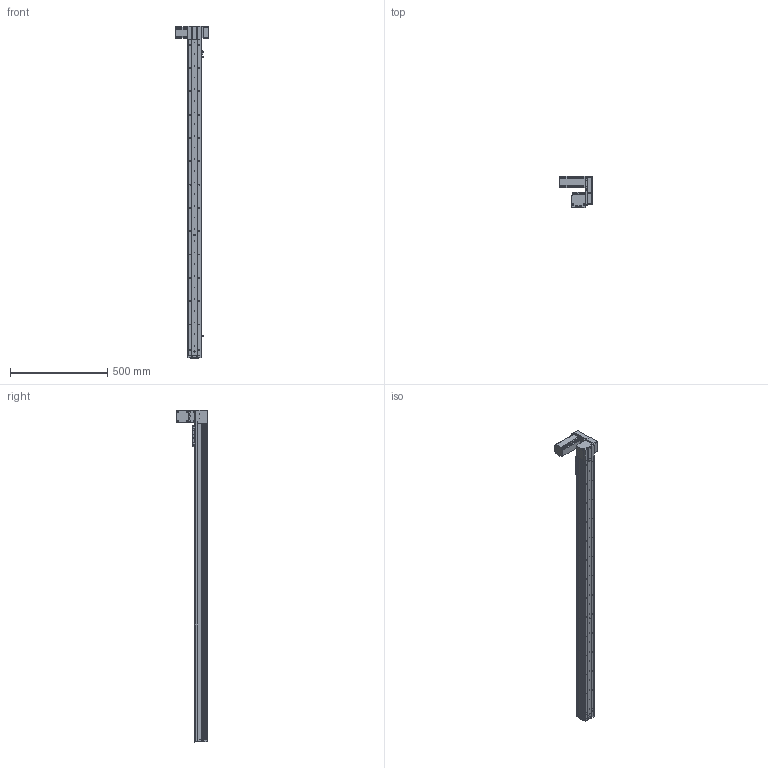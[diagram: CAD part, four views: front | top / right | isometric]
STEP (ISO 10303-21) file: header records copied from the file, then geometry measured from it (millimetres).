
FILE_DESCRIPTION (( 'STEP AP214' ), '1' );
FILE_NAME ('KSD68BS-S1450-MLU-CR.STEP', '2019-11-07T08:18:39', ( '微软用户' ), ( '微软中国' ), 'SwSTEP 2.0', 'SolidWorks 2014', '' );
FILE_SCHEMA (( 'AUTOMOTIVE_DESIGN' ));
Length unit declared in the file: millimetre
Products named in the file (14): KSD68BS 1450行程盖板全封闭; 68单导轨全封闭同步带安装板; 悵誘欶奻狟殏; 68宽马达安装板连板上折同步带; 感应片68宽全封闭; U倰嫖萇EEㄜSX672; 台达ECMA－C20604AS伺服电机（400W); KSD68BS 1450行程底板全封闭; KSD68BS-S1450-MLU-CR; 68遵裔啣揤啣1; 68宽单导轨全封闭丝杆传动安装板1防护罩; KSD68BS 1450行程侧板全封闭; 68宽单导轨全封闭同步带端板; 68单导轨全封闭同步带电机座左
Assembly tree (17 placements, depth 2):
  KSD68BS-S1450-MLU-CR
    KSD68BS 1450行程底板全封闭
    台达ECMA－C20604AS伺服电机（400W)
    U倰嫖萇EEㄜSX672  x3
    感应片68宽全封闭
    68宽马达安装板连板上折同步带
    悵誘欶奻狟殏
    68单导轨全封闭同步带安装板
    68单导轨全封闭同步带电机座左
    68宽单导轨全封闭同步带端板
    KSD68BS 1450行程侧板全封闭  x2
    68宽单导轨全封闭丝杆传动安装板1防护罩
    68遵裔啣揤啣1  x2
    KSD68BS 1450行程盖板全封闭
Bounding box: 167.2 x 159.5 x 1708.1 mm (x, y, z)
Volume: 3142462.7 mm3; surface area: 1258182.4 mm2
Topology: 18 solids, 18 shells, 1589 faces, 4563 edges, 2910 vertices
Faces by surface type: cylinder 776, plane 629, cone 184
Entity records: 51567 total; most frequent: CARTESIAN_POINT 8973, DIRECTION 7678, ORIENTED_EDGE 7346, EDGE_CURVE 3673, AXIS2_PLACEMENT_3D 2795, VERTEX_POINT 2408, LINE 2088, VECTOR 2088
